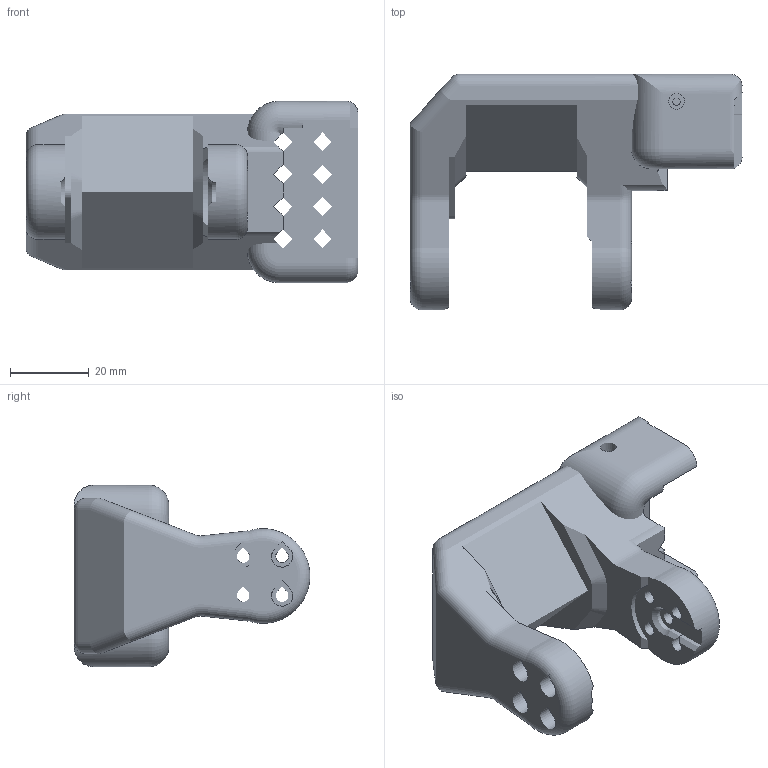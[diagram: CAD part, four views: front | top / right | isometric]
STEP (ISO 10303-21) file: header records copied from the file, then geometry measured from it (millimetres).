
FILE_DESCRIPTION(/* description */ ('STEP AP242 Edition 2','CAx-IF Rec.Pracs.---Representation and Presentation of Product Manufacturing Information (PMI)---4.0---2014-10-13','CAx-IF Rec.Pracs.---3D Tessellated Geometry---0.4---2014-09-14','2;1','CAx-IF Rec.Pracs.---User Defined Attributes---1.5---2016-08-15'),/* implementation_level */ '2;1');
FILE_NAME(/* name */ 'BambuLabA1mini_Leader_SO101 - Part 2',/* time_stamp */ '2026-11-25T15:08:23Z',/* author */ (''),/* organization */ (''),/* preprocessor_version */ 'ST-DEVELOPER v20',/* originating_system */ 'ONSHAPE BY PTC INC, 1.224',/* authorisation */ ' ');
FILE_SCHEMA (('AP242_MANAGED_MODEL_BASED_3D_ENGINEERING_MIM_LF { 1 0 10303 442 3 1 4 }'));
Length unit declared in the file: metre
Products named in the file (1): Part 2
Bounding box: 84.2 x 59.8 x 46 mm (x, y, z)
Surface area: 18181.2 mm2 (no closed solid volume)
Topology: 0 solids, 1 shells, 1 faces, 0 edges, 0 vertices
Faces by surface type: other 1
Entity records: 38 total; most frequent: STYLED_ITEM 2, PRESENTATION_STYLE_ASSIGNMENT 2, SURFACE_STYLE_USAGE 2, SURFACE_SIDE_STYLE 2, SURFACE_STYLE_FILL_AREA 2, FILL_AREA_STYLE 2, FILL_AREA_STYLE_COLOUR 2, DIRECTION 2
